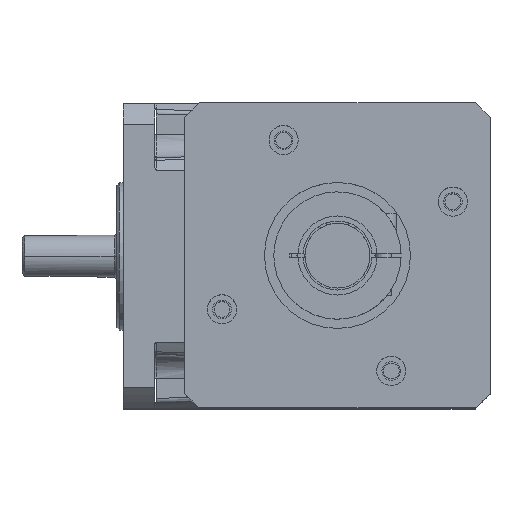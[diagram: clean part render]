
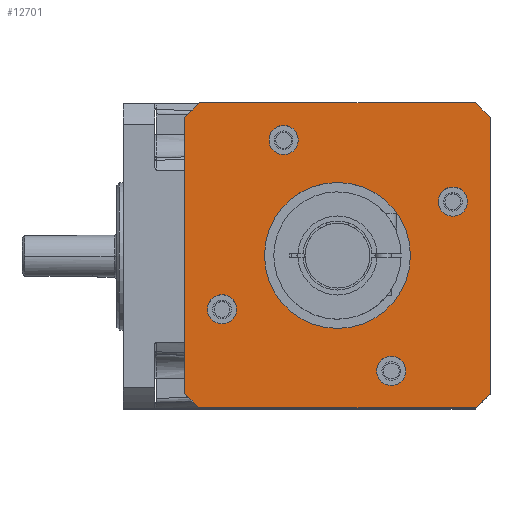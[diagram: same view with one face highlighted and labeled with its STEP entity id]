
A CAD part, top view. The second image highlights one B-rep face of the part: STEP entity #12701.
In plain terms, the highlighted planar face has unit normal (0, 0, 1).
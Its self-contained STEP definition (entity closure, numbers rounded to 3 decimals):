
#12067=CARTESIAN_POINT('',(0.,0.,246.));
#12068=DIRECTION('',(0.,0.,1.));
#12069=DIRECTION('',(0.,-1.,0.));
#12070=AXIS2_PLACEMENT_3D('',#12067,#12068,#12069);
#12072=CARTESIAN_POINT('',(0.,0.,246.));
#12073=DIRECTION('',(0.,0.,1.));
#12074=DIRECTION('',(0.,1.,0.));
#12075=AXIS2_PLACEMENT_3D('',#12072,#12073,#12074);
#12077=CARTESIAN_POINT('',(0.,0.,246.));
#12078=DIRECTION('',(0.,0.,-1.));
#12079=DIRECTION('',(0.742,-0.67,0.));
#12080=AXIS2_PLACEMENT_3D('',#12077,#12078,#12079);
#12082=DIRECTION('',(-1.,0.,0.));
#12083=VECTOR('',#12082,103.923);
#12084=CARTESIAN_POINT('',(51.962,-57.5,246.));
#12085=LINE('',#12084,#12083);
#12086=CARTESIAN_POINT('',(0.,0.,246.));
#12087=DIRECTION('',(0.,0.,-1.));
#12088=DIRECTION('',(-0.67,-0.742,0.));
#12089=AXIS2_PLACEMENT_3D('',#12086,#12087,#12088);
#12091=DIRECTION('',(0.,1.,0.));
#12092=VECTOR('',#12091,103.923);
#12093=CARTESIAN_POINT('',(-57.5,-51.962,246.));
#12094=LINE('',#12093,#12092);
#12095=CARTESIAN_POINT('',(0.,0.,246.));
#12096=DIRECTION('',(0.,0.,-1.));
#12097=DIRECTION('',(-0.742,0.67,0.));
#12098=AXIS2_PLACEMENT_3D('',#12095,#12096,#12097);
#12100=DIRECTION('',(1.,0.,0.));
#12101=VECTOR('',#12100,103.923);
#12102=CARTESIAN_POINT('',(-51.962,57.5,246.));
#12103=LINE('',#12102,#12101);
#12104=CARTESIAN_POINT('',(0.,0.,246.));
#12105=DIRECTION('',(0.,0.,-1.));
#12106=DIRECTION('',(0.67,0.742,0.));
#12107=AXIS2_PLACEMENT_3D('',#12104,#12105,#12106);
#12109=DIRECTION('',(0.,-1.,0.));
#12110=VECTOR('',#12109,103.923);
#12111=CARTESIAN_POINT('',(57.5,51.962,246.));
#12112=LINE('',#12111,#12110);
#12113=CARTESIAN_POINT('',(43.503,20.286,246.));
#12114=DIRECTION('',(0.,0.,-1.));
#12115=DIRECTION('',(-1.,0.,0.));
#12116=AXIS2_PLACEMENT_3D('',#12113,#12114,#12115);
#12118=CARTESIAN_POINT('',(43.503,20.286,246.));
#12119=DIRECTION('',(0.,0.,-1.));
#12120=DIRECTION('',(1.,0.,0.));
#12121=AXIS2_PLACEMENT_3D('',#12118,#12119,#12120);
#12123=CARTESIAN_POINT('',(-20.286,43.503,246.));
#12124=DIRECTION('',(0.,0.,-1.));
#12125=DIRECTION('',(-1.,0.,0.));
#12126=AXIS2_PLACEMENT_3D('',#12123,#12124,#12125);
#12128=CARTESIAN_POINT('',(-20.286,43.503,246.));
#12129=DIRECTION('',(0.,0.,-1.));
#12130=DIRECTION('',(1.,0.,0.));
#12131=AXIS2_PLACEMENT_3D('',#12128,#12129,#12130);
#12133=CARTESIAN_POINT('',(-43.503,-20.286,246.));
#12134=DIRECTION('',(0.,0.,-1.));
#12135=DIRECTION('',(-1.,0.,0.));
#12136=AXIS2_PLACEMENT_3D('',#12133,#12134,#12135);
#12138=CARTESIAN_POINT('',(-43.503,-20.286,246.));
#12139=DIRECTION('',(0.,0.,-1.));
#12140=DIRECTION('',(1.,0.,0.));
#12141=AXIS2_PLACEMENT_3D('',#12138,#12139,#12140);
#12143=CARTESIAN_POINT('',(20.286,-43.503,246.));
#12144=DIRECTION('',(0.,0.,-1.));
#12145=DIRECTION('',(1.,0.,0.));
#12146=AXIS2_PLACEMENT_3D('',#12143,#12144,#12145);
#12148=CARTESIAN_POINT('',(20.286,-43.503,246.));
#12149=DIRECTION('',(0.,0.,-1.));
#12150=DIRECTION('',(-1.,0.,0.));
#12151=AXIS2_PLACEMENT_3D('',#12148,#12149,#12150);
#12526=CARTESIAN_POINT('',(57.5,-51.962,246.));
#12527=CARTESIAN_POINT('',(51.962,-57.5,246.));
#12528=VERTEX_POINT('',#12526);
#12529=VERTEX_POINT('',#12527);
#12530=CARTESIAN_POINT('',(-51.962,-57.5,246.));
#12531=CARTESIAN_POINT('',(-57.5,-51.962,246.));
#12532=VERTEX_POINT('',#12530);
#12533=VERTEX_POINT('',#12531);
#12534=CARTESIAN_POINT('',(-57.5,51.962,246.));
#12535=CARTESIAN_POINT('',(-51.962,57.5,246.));
#12536=VERTEX_POINT('',#12534);
#12537=VERTEX_POINT('',#12535);
#12538=CARTESIAN_POINT('',(51.962,57.5,246.));
#12539=CARTESIAN_POINT('',(57.5,51.962,246.));
#12540=VERTEX_POINT('',#12538);
#12541=VERTEX_POINT('',#12539);
#12578=CARTESIAN_POINT('',(38.003,20.286,246.));
#12579=CARTESIAN_POINT('',(49.003,20.286,246.));
#12580=VERTEX_POINT('',#12578);
#12581=VERTEX_POINT('',#12579);
#12594=CARTESIAN_POINT('',(-25.786,43.503,246.));
#12595=VERTEX_POINT('',#12594);
#12596=CARTESIAN_POINT('',(-14.786,43.503,246.));
#12597=VERTEX_POINT('',#12596);
#12606=CARTESIAN_POINT('',(-49.003,-20.286,246.));
#12607=VERTEX_POINT('',#12606);
#12608=CARTESIAN_POINT('',(-38.003,-20.286,246.));
#12609=VERTEX_POINT('',#12608);
#12618=CARTESIAN_POINT('',(14.786,-43.503,246.));
#12619=VERTEX_POINT('',#12618);
#12620=CARTESIAN_POINT('',(25.786,-43.503,246.));
#12621=VERTEX_POINT('',#12620);
#12624=CARTESIAN_POINT('',(0.,-27.5,246.));
#12625=CARTESIAN_POINT('',(0.,27.5,246.));
#12626=VERTEX_POINT('',#12624);
#12627=VERTEX_POINT('',#12625);
#12648=CARTESIAN_POINT('',(0.,0.,246.));
#12649=DIRECTION('',(0.,0.,-1.));
#12650=DIRECTION('',(-1.,0.,0.));
#12651=AXIS2_PLACEMENT_3D('',#12648,#12649,#12650);
#12652=PLANE('',#12651);
#12654=ORIENTED_EDGE('',*,*,#12653,.T.);
#12656=ORIENTED_EDGE('',*,*,#12655,.T.);
#12658=ORIENTED_EDGE('',*,*,#12657,.T.);
#12660=ORIENTED_EDGE('',*,*,#12659,.T.);
#12662=ORIENTED_EDGE('',*,*,#12661,.T.);
#12664=ORIENTED_EDGE('',*,*,#12663,.T.);
#12666=ORIENTED_EDGE('',*,*,#12665,.T.);
#12668=ORIENTED_EDGE('',*,*,#12667,.T.);
#12669=EDGE_LOOP('',(#12654,#12656,#12658,#12660,#12662,#12664,#12666,#12668));
#12670=FACE_OUTER_BOUND('',#12669,.F.);
#12672=ORIENTED_EDGE('',*,*,#12671,.T.);
#12674=ORIENTED_EDGE('',*,*,#12673,.T.);
#12675=EDGE_LOOP('',(#12672,#12674));
#12676=FACE_BOUND('',#12675,.F.);
#12678=ORIENTED_EDGE('',*,*,#12677,.F.);
#12680=ORIENTED_EDGE('',*,*,#12679,.F.);
#12681=EDGE_LOOP('',(#12678,#12680));
#12682=FACE_BOUND('',#12681,.F.);
#12684=ORIENTED_EDGE('',*,*,#12683,.F.);
#12686=ORIENTED_EDGE('',*,*,#12685,.F.);
#12687=EDGE_LOOP('',(#12684,#12686));
#12688=FACE_BOUND('',#12687,.F.);
#12690=ORIENTED_EDGE('',*,*,#12689,.F.);
#12692=ORIENTED_EDGE('',*,*,#12691,.F.);
#12693=EDGE_LOOP('',(#12690,#12692));
#12694=FACE_BOUND('',#12693,.F.);
#12696=ORIENTED_EDGE('',*,*,#12695,.F.);
#12698=ORIENTED_EDGE('',*,*,#12697,.F.);
#12699=EDGE_LOOP('',(#12696,#12698));
#12700=FACE_BOUND('',#12699,.F.);
#12701=ADVANCED_FACE('',(#12670,#12676,#12682,#12688,#12694,#12700),#12652,.F.);
#12071=CIRCLE('',#12070,27.5);
#12076=CIRCLE('',#12075,27.5);
#12081=CIRCLE('',#12080,77.5);
#12090=CIRCLE('',#12089,77.5);
#12099=CIRCLE('',#12098,77.5);
#12108=CIRCLE('',#12107,77.5);
#12117=CIRCLE('',#12116,5.5);
#12122=CIRCLE('',#12121,5.5);
#12127=CIRCLE('',#12126,5.5);
#12132=CIRCLE('',#12131,5.5);
#12137=CIRCLE('',#12136,5.5);
#12142=CIRCLE('',#12141,5.5);
#12147=CIRCLE('',#12146,5.5);
#12152=CIRCLE('',#12151,5.5);
#12653=EDGE_CURVE('',#12528,#12529,#12081,.T.);
#12655=EDGE_CURVE('',#12529,#12532,#12085,.T.);
#12657=EDGE_CURVE('',#12532,#12533,#12090,.T.);
#12659=EDGE_CURVE('',#12533,#12536,#12094,.T.);
#12661=EDGE_CURVE('',#12536,#12537,#12099,.T.);
#12663=EDGE_CURVE('',#12537,#12540,#12103,.T.);
#12665=EDGE_CURVE('',#12540,#12541,#12108,.T.);
#12667=EDGE_CURVE('',#12541,#12528,#12112,.T.);
#12671=EDGE_CURVE('',#12626,#12627,#12071,.T.);
#12673=EDGE_CURVE('',#12627,#12626,#12076,.T.);
#12677=EDGE_CURVE('',#12580,#12581,#12117,.T.);
#12679=EDGE_CURVE('',#12581,#12580,#12122,.T.);
#12683=EDGE_CURVE('',#12595,#12597,#12127,.T.);
#12685=EDGE_CURVE('',#12597,#12595,#12132,.T.);
#12689=EDGE_CURVE('',#12607,#12609,#12137,.T.);
#12691=EDGE_CURVE('',#12609,#12607,#12142,.T.);
#12695=EDGE_CURVE('',#12621,#12619,#12147,.T.);
#12697=EDGE_CURVE('',#12619,#12621,#12152,.T.);
